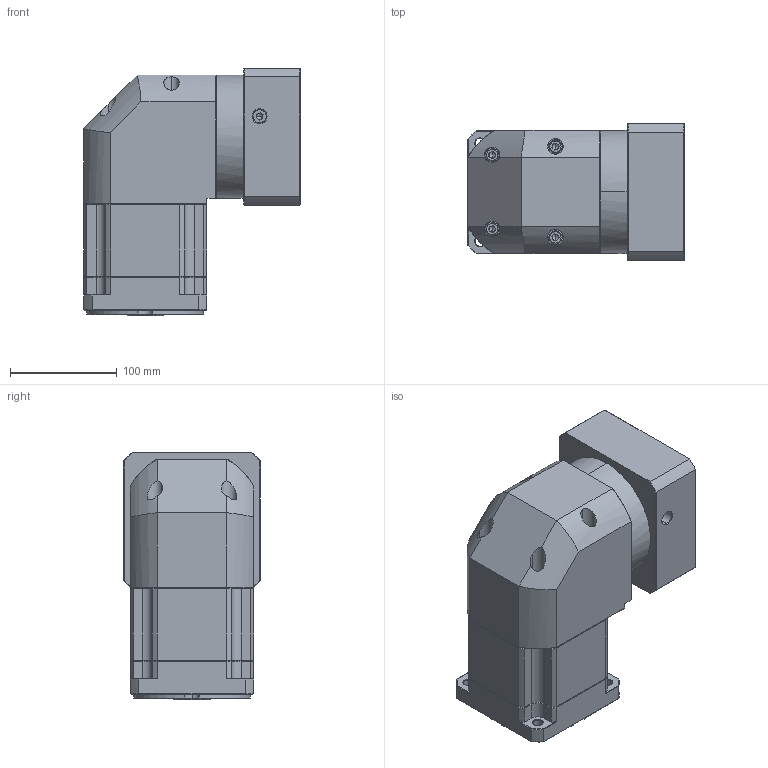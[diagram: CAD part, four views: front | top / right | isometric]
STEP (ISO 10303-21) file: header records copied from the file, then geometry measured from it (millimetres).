
FILE_DESCRIPTION (( 'STEP AP214' ), '1' );
FILE_NAME ('ZBR115A-K25-L2-P2-28-110-145-M8.step', '2023-08-26T12:45:10', ( '' ), ( '' ), 'SwSTEP 2.0', 'SolidWorks 2016', '' );
FILE_SCHEMA (( 'AUTOMOTIVE_DESIGN' ));
Length unit declared in the file: millimetre
Products named in the file (1): ZBR115A-K25-L2-P2-28-110-145-M8
Bounding box: 202.4 x 128 x 231.5 mm (x, y, z)
Volume: 3432739.4 mm3; surface area: 271093.5 mm2
Topology: 6 solids, 6 shells, 2326 faces, 6090 edges, 3865 vertices
Faces by surface type: plane 1133, bspline 416, cylinder 406, cone 363, torus 8
Entity records: 122683 total; most frequent: CARTESIAN_POINT 43283, ORIENTED_EDGE 12124, DIRECTION 9588, EDGE_CURVE 6062, VECTOR 3942, LINE 3942, VERTEX_POINT 3865, AXIS2_PLACEMENT_3D 2823
